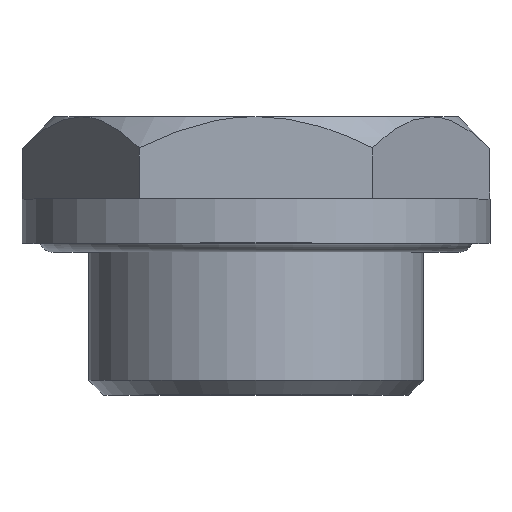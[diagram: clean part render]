
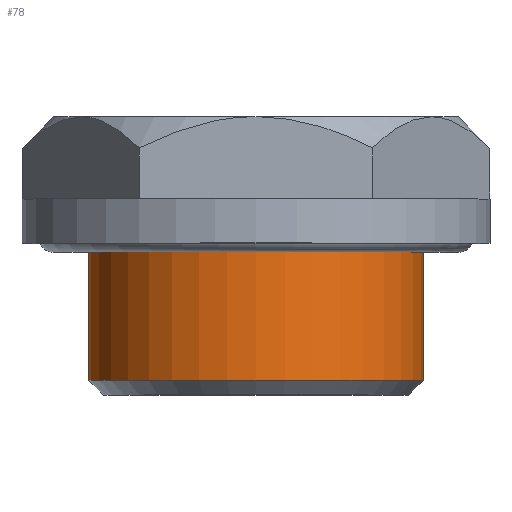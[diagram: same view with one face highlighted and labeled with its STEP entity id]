
A CAD part, top view. The second image highlights one B-rep face of the part: STEP entity #78.
In plain terms, the highlighted cylindrical face has radius 13.22 mm (diameter 26.441 mm), a full revolution.
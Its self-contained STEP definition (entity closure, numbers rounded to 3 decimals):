
#78 = ADVANCED_FACE( '', ( #136, #137 ), #138, .T. );
#136 = FACE_OUTER_BOUND( '', #253, .T. );
#137 = FACE_OUTER_BOUND( '', #254, .T. );
#138 = CYLINDRICAL_SURFACE( '', #255, 13.221 );
#253 = EDGE_LOOP( '', ( #380 ) );
#254 = EDGE_LOOP( '', ( #381 ) );
#255 = AXIS2_PLACEMENT_3D( '', #382, #383, #384 );
#380 = ORIENTED_EDGE( '', *, *, #757, .F. );
#381 = ORIENTED_EDGE( '', *, *, #758, .T. );
#382 = CARTESIAN_POINT( '', ( 0., 0., 0. ) );
#383 = DIRECTION( '', ( 0., 1., 0. ) );
#384 = DIRECTION( '', ( 0., 0., -1. ) );
#757 = EDGE_CURVE( '', #880, #880, #881, .T. );
#758 = EDGE_CURVE( '', #882, #882, #883, .T. );
#880 = VERTEX_POINT( '', #1090 );
#881 = CIRCLE( '', #1091, 13.221 );
#882 = VERTEX_POINT( '', #1092 );
#883 = CIRCLE( '', #1093, 13.221 );
#1090 = CARTESIAN_POINT( '', ( 0., 1.162, -13.221 ) );
#1091 = AXIS2_PLACEMENT_3D( '', #1436, #1437, #1438 );
#1092 = CARTESIAN_POINT( '', ( 0., 12., -13.221 ) );
#1093 = AXIS2_PLACEMENT_3D( '', #1439, #1440, #1441 );
#1436 = CARTESIAN_POINT( '', ( 0., 1.162, 0. ) );
#1437 = DIRECTION( '', ( 0., -1., 0. ) );
#1438 = DIRECTION( '', ( 0., 0., -1. ) );
#1439 = CARTESIAN_POINT( '', ( 0., 12., 0. ) );
#1440 = DIRECTION( '', ( 0., -1., 0. ) );
#1441 = DIRECTION( '', ( 0., 0., -1. ) );
